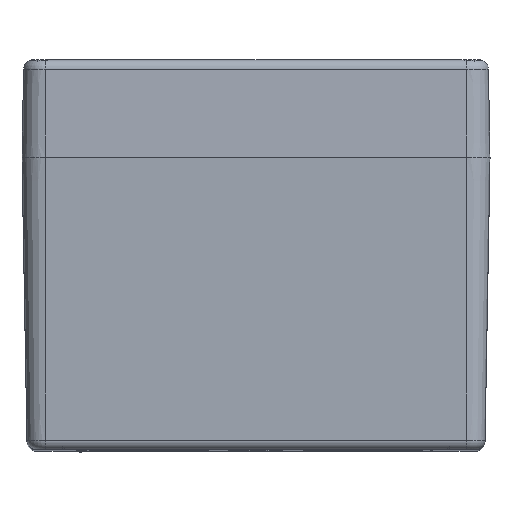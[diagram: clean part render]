
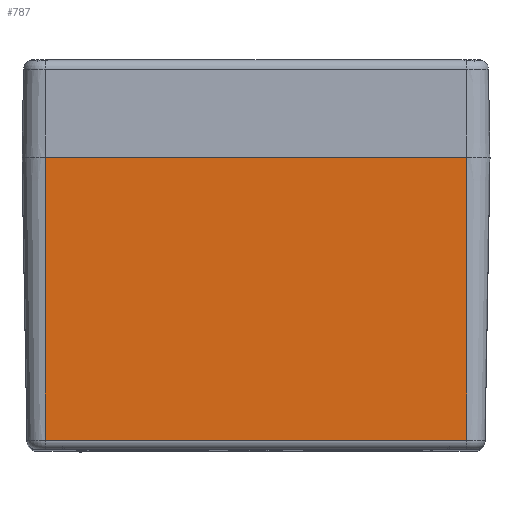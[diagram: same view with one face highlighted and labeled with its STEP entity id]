
A CAD part, top view. The second image highlights one B-rep face of the part: STEP entity #787.
In plain terms, the highlighted planar face has unit normal (0, -0.018, 1).
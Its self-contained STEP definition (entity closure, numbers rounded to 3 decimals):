
#489 = CARTESIAN_POINT ( 'NONE',  ( -54., 0., 120. ) ) ;
#621 = DIRECTION ( 'NONE',  ( 1., 0., 0. ) ) ;
#787 = ADVANCED_FACE ( 'NONE', ( #32054 ), #11693, .T. ) ;
#1079 = DIRECTION ( 'NONE',  ( 0., -0.017, 1. ) ) ;
#2486 = VERTEX_POINT ( 'NONE', #11162 ) ;
#3055 = VERTEX_POINT ( 'NONE', #8636 ) ;
#3123 = CARTESIAN_POINT ( 'NONE',  ( 54., 0., 120. ) ) ;
#4996 = LINE ( 'NONE', #489, #18255 ) ;
#5828 = VECTOR ( 'NONE', #16320, 1000. ) ;
#7003 = ORIENTED_EDGE ( 'NONE', *, *, #8674, .F. ) ;
#7314 = DIRECTION ( 'NONE',  ( 1., 0., 0. ) ) ;
#8304 = LINE ( 'NONE', #24432, #31608 ) ;
#8562 = DIRECTION ( 'NONE',  ( 0., 1., 0.017 ) ) ;
#8636 = CARTESIAN_POINT ( 'NONE',  ( -54., 0., 120. ) ) ;
#8674 = EDGE_CURVE ( 'NONE', #3055, #33106, #33314, .T. ) ;
#11162 = CARTESIAN_POINT ( 'NONE',  ( -54., -72.544, 118.734 ) ) ;
#11634 = EDGE_CURVE ( 'NONE', #31307, #33106, #34060, .T. ) ;
#11689 = EDGE_CURVE ( 'NONE', #2486, #3055, #4996, .T. ) ;
#11693 = PLANE ( 'NONE',  #19598 ) ;
#11723 = EDGE_CURVE ( 'NONE', #2486, #31307, #8304, .T. ) ;
#16230 = CARTESIAN_POINT ( 'NONE',  ( 54., -72.544, 118.734 ) ) ;
#16320 = DIRECTION ( 'NONE',  ( 0., 1., 0.017 ) ) ;
#18255 = VECTOR ( 'NONE', #8562, 1000. ) ;
#19598 = AXIS2_PLACEMENT_3D ( 'NONE', #22214, #1079, #19665 ) ;
#19665 = DIRECTION ( 'NONE',  ( 0., -1., -0.017 ) ) ;
#19995 = VECTOR ( 'NONE', #7314, 1000. ) ;
#21269 = ORIENTED_EDGE ( 'NONE', *, *, #11723, .T. ) ;
#21522 = CARTESIAN_POINT ( 'NONE',  ( 54., 0., 120. ) ) ;
#22214 = CARTESIAN_POINT ( 'NONE',  ( -54., 0., 120. ) ) ;
#23171 = CARTESIAN_POINT ( 'NONE',  ( -54., 0., 120. ) ) ;
#23208 = ORIENTED_EDGE ( 'NONE', *, *, #11689, .F. ) ;
#23873 = EDGE_LOOP ( 'NONE', ( #23208, #21269, #29256, #7003 ) ) ;
#24432 = CARTESIAN_POINT ( 'NONE',  ( 54., -72.544, 118.734 ) ) ;
#29256 = ORIENTED_EDGE ( 'NONE', *, *, #11634, .T. ) ;
#31307 = VERTEX_POINT ( 'NONE', #16230 ) ;
#31608 = VECTOR ( 'NONE', #621, 1000. ) ;
#32054 = FACE_OUTER_BOUND ( 'NONE', #23873, .T. ) ;
#33106 = VERTEX_POINT ( 'NONE', #3123 ) ;
#33314 = LINE ( 'NONE', #23171, #19995 ) ;
#34060 = LINE ( 'NONE', #21522, #5828 ) ;
